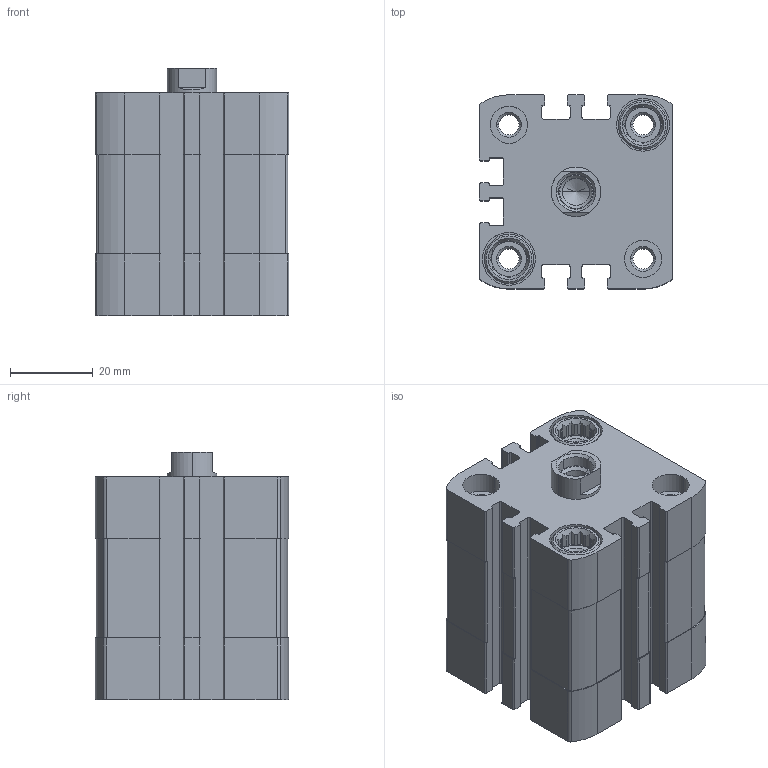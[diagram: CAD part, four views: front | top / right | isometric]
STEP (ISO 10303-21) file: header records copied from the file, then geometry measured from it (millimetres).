
FILE_DESCRIPTION (( 'STEP AP203' ), '1' );
FILE_NAME ('CCN32-10F.STEP', '2017-04-06T12:25:30', ( '' ), ( '' ), 'SwSTEP 2.0', 'SolidWorks 2016', '' );
FILE_SCHEMA (( 'CONFIG_CONTROL_DESIGN' ));
Length unit declared in the file: millimetre
Products named in the file (3): CCN-10---(Z); CCN-10_(KS); CCN32-10F
Assembly tree (2 placements, depth 2):
  CCN32-10F
    CCN-10---(Z)
    CCN-10_(KS)
Bounding box: 47 x 47 x 60 mm (x, y, z)
Volume: 89922.4 mm3; surface area: 32842.3 mm2
Topology: 2 solids, 2 shells, 479 faces, 1298 edges, 853 vertices
Faces by surface type: plane 267, cylinder 170, cone 42
Entity records: 15589 total; most frequent: CARTESIAN_POINT 2927, DIRECTION 2652, ORIENTED_EDGE 2592, EDGE_CURVE 1296, AXIS2_PLACEMENT_3D 970, VERTEX_POINT 853, VECTOR 712, LINE 712
